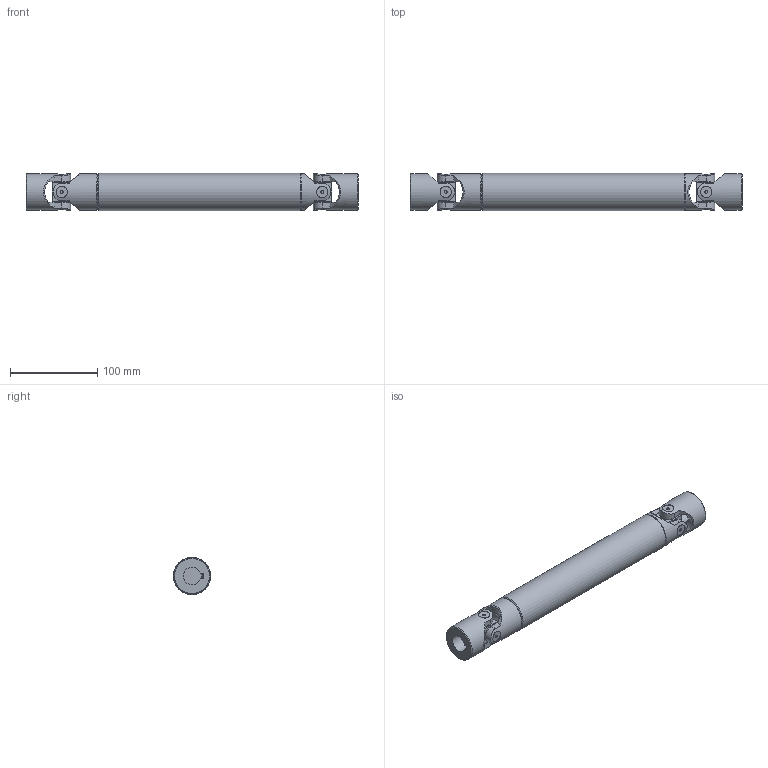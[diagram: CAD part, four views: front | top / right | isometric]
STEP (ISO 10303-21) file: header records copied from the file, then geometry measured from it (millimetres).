
FILE_DESCRIPTION(/* description */ (''),/* implementation_level */ '2;1');
FILE_NAME(/* name */ '\\SRV2016\Societa\Stefano\Disegni 3D\00Catalogo 3D\03Trasmissioni standard GA\3GA23\3GA23_SG0A2023.stp',/* time_stamp */ '2022-02-25T13:36:20+01:00',/* author */ ('acquisti'),/* organization */ (''),/* preprocessor_version */ 'ST-DEVELOPER v15.6',/* originating_system */ 'Autodesk Inventor 2015',/* authorisation */ '');
FILE_SCHEMA (('AUTOMOTIVE_DESIGN { 1 0 10303 214 3 1 1 }'));
Length unit declared in the file: millimetre
Products named in the file (5): 3GA23 LAI; 3GA23 LCI; 3G SFE; 3G MOC; 3GA23_SG0A2023
Assembly tree (6 placements, depth 2):
  3GA23_SG0A2023
    3GA23 LAI
    3GA23 LCI
    3G SFE  x2
    3G MOC  x2
Bounding box: 380 x 42.5 x 42.5 mm (x, y, z)
Volume: 370437.7 mm3; surface area: 115583.3 mm2
Topology: 6 solids, 6 shells, 228 faces, 561 edges, 369 vertices
Faces by surface type: plane 106, cylinder 93, cone 25, torus 4
Full cylindrical faces by diameter (mm): 3 x8, 18 x8, 20 x1, 22 x2, 35 x1, 42 x4, 42.5 x1
Entity records: 5785 total; most frequent: CARTESIAN_POINT 1675, DIRECTION 823, ORIENTED_EDGE 820, EDGE_CURVE 410, AXIS2_PLACEMENT_3D 335, VERTEX_POINT 286, EDGE_LOOP 224, FACE_OUTER_BOUND 176
